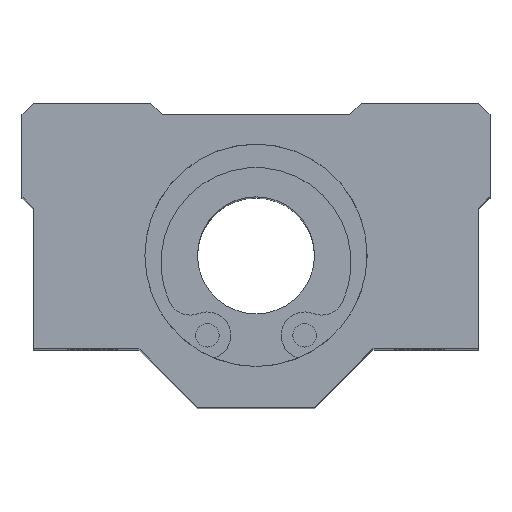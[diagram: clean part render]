
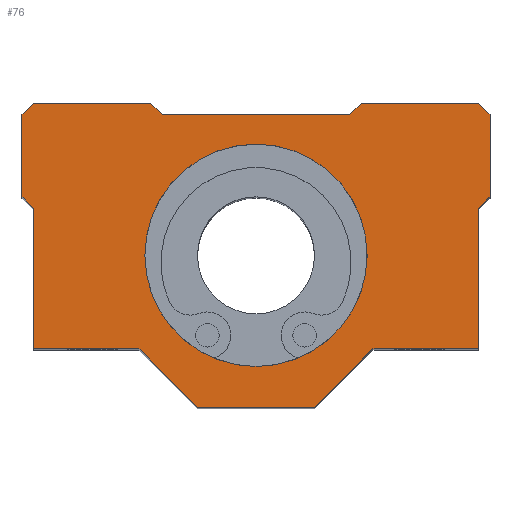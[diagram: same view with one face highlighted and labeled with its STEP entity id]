
A CAD part, top view. The second image highlights one B-rep face of the part: STEP entity #76.
In plain terms, the highlighted planar face has unit normal (0, 0, 1).
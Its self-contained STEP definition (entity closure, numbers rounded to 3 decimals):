
#76=ADVANCED_FACE('',(#132,#133),#134,.F.);
#132=FACE_OUTER_BOUND('',#269,.T.);
#133=FACE_BOUND('',#270,.T.);
#134=PLANE('',#271);
#269=EDGE_LOOP('',(#411,#412,#413,#414,#415,#416,#417,#418,#419,#420,#421,#422,#423,#424,#425,#426,#427,#428));
#270=EDGE_LOOP('',(#429));
#271=AXIS2_PLACEMENT_3D('',#430,#431,#432);
#411=ORIENTED_EDGE('',*,*,#795,.F.);
#412=ORIENTED_EDGE('',*,*,#796,.F.);
#413=ORIENTED_EDGE('',*,*,#797,.F.);
#414=ORIENTED_EDGE('',*,*,#798,.F.);
#415=ORIENTED_EDGE('',*,*,#799,.F.);
#416=ORIENTED_EDGE('',*,*,#800,.F.);
#417=ORIENTED_EDGE('',*,*,#801,.F.);
#418=ORIENTED_EDGE('',*,*,#802,.F.);
#419=ORIENTED_EDGE('',*,*,#803,.F.);
#420=ORIENTED_EDGE('',*,*,#804,.F.);
#421=ORIENTED_EDGE('',*,*,#805,.F.);
#422=ORIENTED_EDGE('',*,*,#806,.F.);
#423=ORIENTED_EDGE('',*,*,#807,.F.);
#424=ORIENTED_EDGE('',*,*,#808,.F.);
#425=ORIENTED_EDGE('',*,*,#809,.F.);
#426=ORIENTED_EDGE('',*,*,#810,.F.);
#427=ORIENTED_EDGE('',*,*,#811,.F.);
#428=ORIENTED_EDGE('',*,*,#812,.F.);
#429=ORIENTED_EDGE('',*,*,#794,.F.);
#430=CARTESIAN_POINT('',(-14.0,18.0,34.0));
#431=DIRECTION('',(0.0,0.0,-1.0));
#432=DIRECTION('',(0.0,1.0,0.0));
#794=EDGE_CURVE('',#912,#912,#913,.F.);
#795=EDGE_CURVE('',#914,#915,#916,.T.);
#796=EDGE_CURVE('',#917,#914,#918,.T.);
#797=EDGE_CURVE('',#919,#917,#920,.T.);
#798=EDGE_CURVE('',#921,#919,#922,.T.);
#799=EDGE_CURVE('',#923,#921,#924,.T.);
#800=EDGE_CURVE('',#925,#923,#926,.T.);
#801=EDGE_CURVE('',#927,#925,#928,.T.);
#802=EDGE_CURVE('',#929,#927,#930,.T.);
#803=EDGE_CURVE('',#931,#929,#932,.T.);
#804=EDGE_CURVE('',#933,#931,#934,.T.);
#805=EDGE_CURVE('',#935,#933,#936,.T.);
#806=EDGE_CURVE('',#937,#935,#938,.T.);
#807=EDGE_CURVE('',#939,#937,#940,.T.);
#808=EDGE_CURVE('',#941,#939,#942,.T.);
#809=EDGE_CURVE('',#943,#941,#944,.T.);
#810=EDGE_CURVE('',#945,#943,#946,.T.);
#811=EDGE_CURVE('',#947,#945,#948,.T.);
#812=EDGE_CURVE('',#915,#947,#949,.T.);
#912=VERTEX_POINT('',#1112);
#913=CIRCLE('',#1113,9.5);
#914=VERTEX_POINT('',#1114);
#915=VERTEX_POINT('',#1115);
#916=LINE('',#1116,#1117);
#917=VERTEX_POINT('',#1118);
#918=LINE('',#1119,#1120);
#919=VERTEX_POINT('',#1121);
#920=LINE('',#1122,#1123);
#921=VERTEX_POINT('',#1124);
#922=LINE('',#1125,#1126);
#923=VERTEX_POINT('',#1127);
#924=LINE('',#1128,#1129);
#925=VERTEX_POINT('',#1130);
#926=LINE('',#1131,#1132);
#927=VERTEX_POINT('',#1133);
#928=LINE('',#1134,#1135);
#929=VERTEX_POINT('',#1136);
#930=LINE('',#1137,#1138);
#931=VERTEX_POINT('',#1139);
#932=LINE('',#1140,#1141);
#933=VERTEX_POINT('',#1142);
#934=LINE('',#1143,#1144);
#935=VERTEX_POINT('',#1145);
#936=LINE('',#1146,#1147);
#937=VERTEX_POINT('',#1148);
#938=LINE('',#1149,#1150);
#939=VERTEX_POINT('',#1151);
#940=LINE('',#1152,#1153);
#941=VERTEX_POINT('',#1154);
#942=LINE('',#1155,#1156);
#943=VERTEX_POINT('',#1157);
#944=LINE('',#1158,#1159);
#945=VERTEX_POINT('',#1160);
#946=LINE('',#1161,#1162);
#947=VERTEX_POINT('',#1163);
#948=LINE('',#1164,#1165);
#949=LINE('',#1166,#1167);
#1112=CARTESIAN_POINT('',(-9.5,0.,34.0));
#1113=AXIS2_PLACEMENT_3D('',#1374,#1375,#1376);
#1114=CARTESIAN_POINT('',(-20.0,12.0,34.0));
#1115=CARTESIAN_POINT('',(-19.0,13.0,34.0));
#1116=CARTESIAN_POINT('',(-20.0,12.0,34.0));
#1117=VECTOR('',#1377,1.0);
#1118=CARTESIAN_POINT('',(-20.0,5.0,34.0));
#1119=CARTESIAN_POINT('',(-20.0,5.0,34.0));
#1120=VECTOR('',#1378,1.0);
#1121=CARTESIAN_POINT('',(-19.0,4.0,34.0));
#1122=CARTESIAN_POINT('',(-19.0,4.0,34.0));
#1123=VECTOR('',#1379,1.0);
#1124=CARTESIAN_POINT('',(-19.0,-8.0,34.0));
#1125=CARTESIAN_POINT('',(-19.0,-8.0,34.0));
#1126=VECTOR('',#1380,1.0);
#1127=CARTESIAN_POINT('',(-10.0,-8.0,34.0));
#1128=CARTESIAN_POINT('',(-10.0,-8.0,34.0));
#1129=VECTOR('',#1381,1.0);
#1130=CARTESIAN_POINT('',(-5.0,-13.0,34.0));
#1131=CARTESIAN_POINT('',(-5.0,-13.0,34.0));
#1132=VECTOR('',#1382,1.0);
#1133=CARTESIAN_POINT('',(5.0,-13.0,34.0));
#1134=CARTESIAN_POINT('',(5.0,-13.0,34.0));
#1135=VECTOR('',#1383,1.0);
#1136=CARTESIAN_POINT('',(10.0,-8.0,34.0));
#1137=CARTESIAN_POINT('',(10.0,-8.0,34.0));
#1138=VECTOR('',#1384,1.0);
#1139=CARTESIAN_POINT('',(19.0,-8.0,34.0));
#1140=CARTESIAN_POINT('',(19.0,-8.0,34.0));
#1141=VECTOR('',#1385,1.0);
#1142=CARTESIAN_POINT('',(19.0,4.0,34.0));
#1143=CARTESIAN_POINT('',(19.0,4.0,34.0));
#1144=VECTOR('',#1386,1.0);
#1145=CARTESIAN_POINT('',(20.0,5.0,34.0));
#1146=CARTESIAN_POINT('',(20.0,5.0,34.0));
#1147=VECTOR('',#1387,1.0);
#1148=CARTESIAN_POINT('',(20.0,12.0,34.0));
#1149=CARTESIAN_POINT('',(20.0,12.0,34.0));
#1150=VECTOR('',#1388,1.0);
#1151=CARTESIAN_POINT('',(19.0,13.0,34.0));
#1152=CARTESIAN_POINT('',(19.0,13.0,34.0));
#1153=VECTOR('',#1389,1.0);
#1154=CARTESIAN_POINT('',(9.0,13.0,34.0));
#1155=CARTESIAN_POINT('',(9.0,13.0,34.0));
#1156=VECTOR('',#1390,1.0);
#1157=CARTESIAN_POINT('',(8.0,12.0,34.0));
#1158=CARTESIAN_POINT('',(8.0,12.0,34.0));
#1159=VECTOR('',#1391,1.0);
#1160=CARTESIAN_POINT('',(-8.0,12.0,34.0));
#1161=CARTESIAN_POINT('',(-8.0,12.0,34.0));
#1162=VECTOR('',#1392,1.0);
#1163=CARTESIAN_POINT('',(-9.0,13.0,34.0));
#1164=CARTESIAN_POINT('',(-9.0,13.0,34.0));
#1165=VECTOR('',#1393,1.0);
#1166=CARTESIAN_POINT('',(-19.0,13.0,34.0));
#1167=VECTOR('',#1394,1.0);
#1374=CARTESIAN_POINT('',(0.0,0.0,34.0));
#1375=DIRECTION('',(0.0,0.0,-1.0));
#1376=DIRECTION('',(-1.0,0.0,0.0));
#1377=DIRECTION('',(0.707,0.707,0.0));
#1378=DIRECTION('',(0.0,1.0,0.0));
#1379=DIRECTION('',(-0.707,0.707,0.0));
#1380=DIRECTION('',(0.0,1.0,0.0));
#1381=DIRECTION('',(-1.0,0.0,0.0));
#1382=DIRECTION('',(-0.707,0.707,0.0));
#1383=DIRECTION('',(-1.0,0.0,0.0));
#1384=DIRECTION('',(-0.707,-0.707,0.0));
#1385=DIRECTION('',(-1.0,0.,0.0));
#1386=DIRECTION('',(0.0,-1.0,0.0));
#1387=DIRECTION('',(-0.707,-0.707,0.0));
#1388=DIRECTION('',(0.0,-1.0,0.0));
#1389=DIRECTION('',(0.707,-0.707,0.0));
#1390=DIRECTION('',(1.0,0.,0.0));
#1391=DIRECTION('',(0.707,0.707,0.0));
#1392=DIRECTION('',(1.0,0.0,0.0));
#1393=DIRECTION('',(0.707,-0.707,0.0));
#1394=DIRECTION('',(1.0,0.0,0.0));
